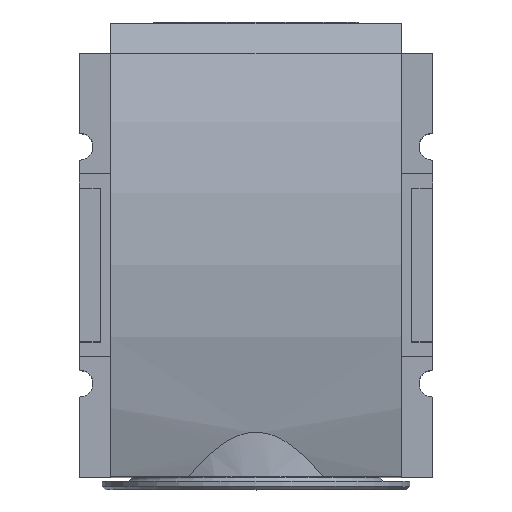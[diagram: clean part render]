
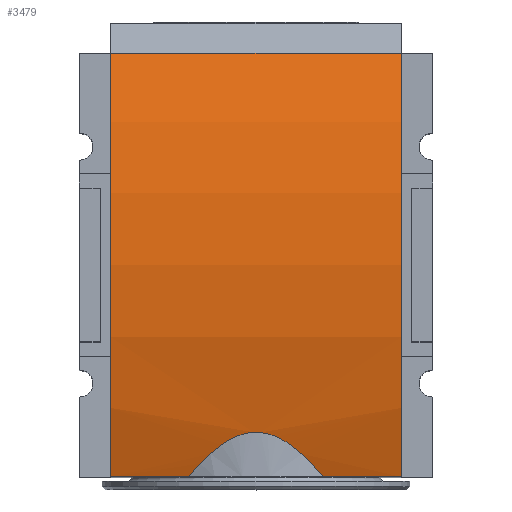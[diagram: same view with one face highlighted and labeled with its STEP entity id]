
A CAD part, top view. The second image highlights one B-rep face of the part: STEP entity #3479.
In plain terms, the highlighted cylindrical face has radius 150 mm (diameter 300 mm), a partial arc.
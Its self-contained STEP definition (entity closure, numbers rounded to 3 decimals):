
#105=CARTESIAN_POINT('',(-35.,0.,-98.5));
#106=DIRECTION('',(1.,0.,0.));
#107=DIRECTION('',(0.,0.34,0.94));
#108=AXIS2_PLACEMENT_3D('',#105,#106,#107);
#994=CARTESIAN_POINT('',(35.,0.,-98.5));
#995=DIRECTION('',(1.,0.,0.));
#996=DIRECTION('',(0.,0.34,0.94));
#997=AXIS2_PLACEMENT_3D('',#994,#995,#996);
#1088=DIRECTION('',(1.,0.,0.));
#1089=VECTOR('',#1088,18.78);
#1090=CARTESIAN_POINT('',(-35.,-51.,42.564));
#1091=LINE('887',#1090,#1089);
#1103=DIRECTION('',(1.,0.,0.));
#1104=VECTOR('',#1103,18.78);
#1105=CARTESIAN_POINT('',(16.22,-51.,42.564));
#1106=LINE('888',#1105,#1104);
#1333=DIRECTION('',(1.,0.,0.));
#1334=VECTOR('',#1333,70.);
#1335=CARTESIAN_POINT('',(-35.,51.,42.564));
#1336=LINE('28',#1335,#1334);
#1340=CARTESIAN_POINT('',(16.22,-51.,42.564));
#1341=CARTESIAN_POINT('',(15.79,-50.472,42.755));
#1342=CARTESIAN_POINT('',(14.952,-49.476,43.108));
#1343=CARTESIAN_POINT('',(13.777,-48.164,43.559));
#1344=CARTESIAN_POINT('',(12.676,-47.013,43.944));
#1345=CARTESIAN_POINT('',(11.646,-46.006,44.272));
#1346=CARTESIAN_POINT('',(10.681,-45.128,44.552));
#1347=CARTESIAN_POINT('',(9.774,-44.361,44.791));
#1348=CARTESIAN_POINT('',(8.921,-43.694,44.996));
#1349=CARTESIAN_POINT('',(8.117,-43.115,45.171));
#1350=CARTESIAN_POINT('',(7.352,-42.61,45.321));
#1351=CARTESIAN_POINT('',(6.626,-42.173,45.45));
#1352=CARTESIAN_POINT('',(5.933,-41.796,45.56));
#1353=CARTESIAN_POINT('',(5.269,-41.471,45.653));
#1354=CARTESIAN_POINT('',(4.626,-41.192,45.733));
#1355=CARTESIAN_POINT('',(4.004,-40.955,45.801));
#1356=CARTESIAN_POINT('',(3.4,-40.757,45.857));
#1357=CARTESIAN_POINT('',(2.811,-40.595,45.903));
#1358=CARTESIAN_POINT('',(2.235,-40.465,45.939));
#1359=CARTESIAN_POINT('',(1.669,-40.366,45.966));
#1360=CARTESIAN_POINT('',(1.109,-40.297,45.986));
#1361=CARTESIAN_POINT('',(0.553,-40.255,
45.997));
#1362=CARTESIAN_POINT('',(0.,-40.242,
46.001));
#1363=CARTESIAN_POINT('',(-0.553,-40.255,
45.997));
#1364=CARTESIAN_POINT('',(-1.109,-40.297,
45.986));
#1365=CARTESIAN_POINT('',(-1.669,-40.366,
45.966));
#1366=CARTESIAN_POINT('',(-2.235,-40.465,
45.939));
#1367=CARTESIAN_POINT('',(-2.811,-40.595,
45.903));
#1368=CARTESIAN_POINT('',(-3.4,-40.757,
45.857));
#1369=CARTESIAN_POINT('',(-4.004,-40.955,
45.801));
#1370=CARTESIAN_POINT('',(-4.626,-41.192,
45.733));
#1371=CARTESIAN_POINT('',(-5.269,-41.471,
45.653));
#1372=CARTESIAN_POINT('',(-5.933,-41.796,
45.559));
#1373=CARTESIAN_POINT('',(-6.626,-42.173,
45.45));
#1374=CARTESIAN_POINT('',(-7.352,-42.61,
45.321));
#1375=CARTESIAN_POINT('',(-8.117,-43.115,
45.171));
#1376=CARTESIAN_POINT('',(-8.921,-43.694,
44.996));
#1377=CARTESIAN_POINT('',(-9.774,-44.361,
44.791));
#1378=CARTESIAN_POINT('',(-10.681,-45.128,
44.552));
#1379=CARTESIAN_POINT('',(-11.646,-46.006,
44.272));
#1380=CARTESIAN_POINT('',(-12.676,-47.013,
43.944));
#1381=CARTESIAN_POINT('',(-13.777,-48.164,
43.559));
#1382=CARTESIAN_POINT('',(-14.952,-49.476,
43.108));
#1383=CARTESIAN_POINT('',(-15.79,-50.472,
42.755));
#1384=CARTESIAN_POINT('',(-16.22,-51.,42.564));
#1743=CARTESIAN_POINT('',(-35.,51.,42.564));
#1744=CARTESIAN_POINT('',(-35.,-51.,42.564));
#1745=VERTEX_POINT('',#1743);
#1746=VERTEX_POINT('',#1744);
#1751=CARTESIAN_POINT('',(35.,51.,42.564));
#1752=CARTESIAN_POINT('',(35.,-51.,42.564));
#1753=VERTEX_POINT('',#1751);
#1754=VERTEX_POINT('',#1752);
#1831=CARTESIAN_POINT('',(-16.22,-51.,42.564));
#1832=VERTEX_POINT('',#1831);
#1833=CARTESIAN_POINT('',(16.22,-51.,42.564));
#1834=VERTEX_POINT('',#1833);
#3465=CARTESIAN_POINT('',(-35.,0.,-98.5));
#3466=DIRECTION('',(1.,0.,0.));
#3467=DIRECTION('',(0.,0.,-1.));
#3468=AXIS2_PLACEMENT_3D('',#3465,#3466,#3467);
#3469=CYLINDRICAL_SURFACE('27',#3468,150.);
#3470=ORIENTED_EDGE('887',*,*,#3082,.F.);
#3471=ORIENTED_EDGE('18',*,*,#2084,.F.);
#3472=ORIENTED_EDGE('28',*,*,#3267,.T.);
#3473=ORIENTED_EDGE('23',*,*,#3007,.T.);
#3474=ORIENTED_EDGE('888',*,*,#3086,.F.);
#3476=ORIENTED_EDGE('13188',*,*,#3475,.T.);
#3477=EDGE_LOOP('27',(#3470,#3471,#3472,#3473,#3474,#3476));
#3478=FACE_OUTER_BOUND('27',#3477,.F.);
#3479=ADVANCED_FACE('27',(#3478),#3469,.T.);
#109=CIRCLE('18',#108,150.);
#998=CIRCLE('23',#997,150.);
#1385=B_SPLINE_CURVE_WITH_KNOTS('13188',3,(#1340,#1341,#1342,#1343,#1344,#1345,
#1346,#1347,#1348,#1349,#1350,#1351,#1352,#1353,#1354,#1355,#1356,#1357,#1358,
#1359,#1360,#1361,#1362,#1363,#1364,#1365,#1366,#1367,#1368,#1369,#1370,#1371,
#1372,#1373,#1374,#1375,#1376,#1377,#1378,#1379,#1380,#1381,#1382,#1383,#1384),
.UNSPECIFIED.,.F.,.F.,(4,1,1,1,1,1,1,1,1,1,1,1,1,1,1,1,1,1,1,1,1,1,1,1,1,1,1,1,
1,1,1,1,1,1,1,1,1,1,1,1,1,1,4),(0.,0.024,0.048,
0.071,0.095,0.119,0.143,
0.167,0.19,0.214,0.238,
0.262,0.286,0.31,0.333,
0.357,0.381,0.405,0.429,
0.452,0.476,0.5,0.524,0.548,
0.571,0.595,0.619,0.643,
0.667,0.69,0.714,0.738,
0.762,0.786,0.81,0.833,
0.857,0.881,0.905,0.929,
0.952,0.976,1.),.UNSPECIFIED.);
#2084=EDGE_CURVE('18',#1745,#1746,#109,.T.);
#3007=EDGE_CURVE('23',#1753,#1754,#998,.T.);
#3082=EDGE_CURVE('887',#1746,#1832,#1091,.T.);
#3086=EDGE_CURVE('888',#1834,#1754,#1106,.T.);
#3267=EDGE_CURVE('28',#1745,#1753,#1336,.T.);
#3475=EDGE_CURVE('13188',#1834,#1832,#1385,.T.);
